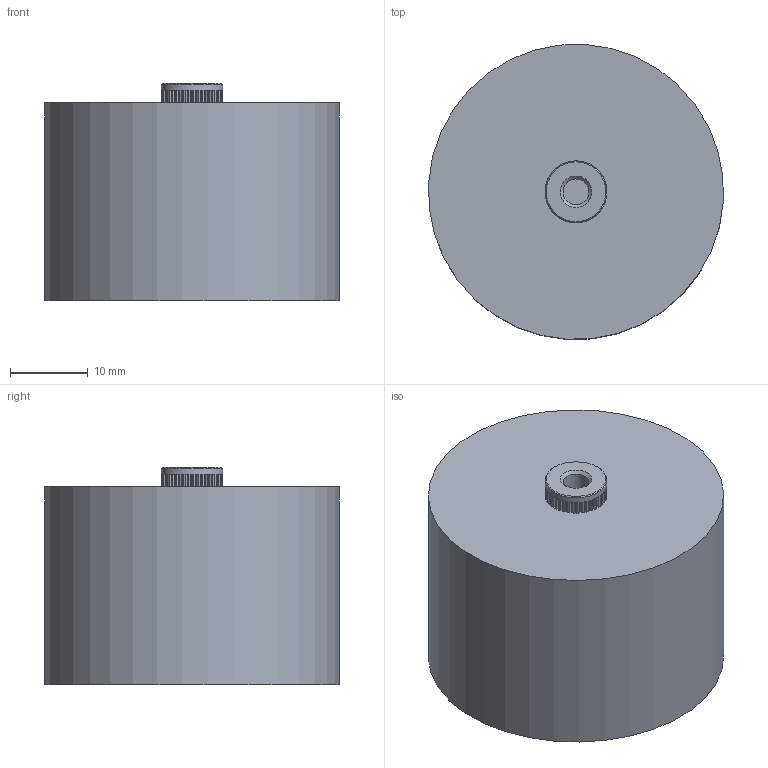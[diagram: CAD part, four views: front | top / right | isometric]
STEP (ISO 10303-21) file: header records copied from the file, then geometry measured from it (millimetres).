
FILE_DESCRIPTION((''),'2;1');
FILE_NAME('I:\Marketing\M6t1\M6T1 - Internal\Drawings\Werk 3\Finished product\Ceramite\Upload for homepage\715\715C###KT###\715C30KTT94.stp','2013-06-10T14:33:09',('sherden'),(''),'Autodesk Inventor 2013','Autodesk Inventor 2013','');
FILE_SCHEMA(('AUTOMOTIVE_DESIGN { 1 2 10303 214 0 1 1 1 }'));
Length unit declared in the file: millimetre
Products named in the file (1): 715C30KTT94
Bounding box: 37.92 x 37.92 x 28 mm (x, y, z)
Volume: 28905.9 mm3; surface area: 5660.2 mm2
Topology: 1 solids, 41 shells, 573 faces, 1419 edges, 932 vertices
Faces by surface type: plane 486, cylinder 84, cone 3
Full cylindrical faces by diameter (mm): 3.302 x2, 7.95 x1, 38 x1
Entity records: 17304 total; most frequent: CARTESIAN_POINT 2916, ORIENTED_EDGE 2822, DIRECTION 2810, EDGE_CURVE 1411, VECTOR 1160, LINE 1160, VERTEX_POINT 931, AXIS2_PLACEMENT_3D 825
